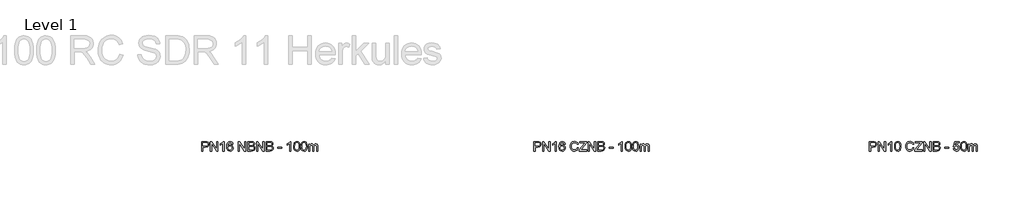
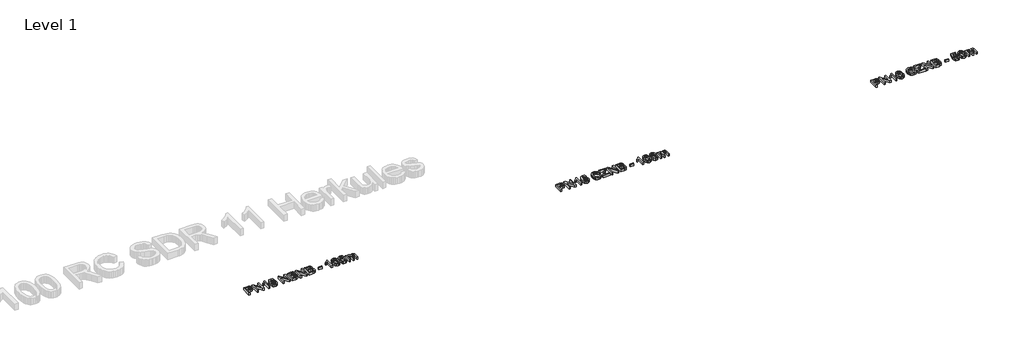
# One storey, part 16 of 17: 3 proxies.
"""IFC4 building model written with IfcOpenShell, lengths in millimetres."""

from ifc_helpers import new_model, si_unit, origin, origin_with_axes, place, context, project, spatial, polyline, outline, extrude, element, save

model = new_model("IFC4")

# Units and contexts
model_context = context("Model", 3, world=origin())
ifc_project = project(units=[si_unit("LENGTHUNIT", "METRE", prefix="MILLI")], contexts=[model_context])

# Site, building, storey
site = spatial("IfcSite", under=ifc_project)
building = spatial("IfcBuilding", under=site)
storey = spatial("IfcBuildingStorey", under=building, Name="Level 1", Elevation=0.0)

# Proxies
placement = place(None, origin())
element("IfcBuildingElementProxy", 1, Name="200mm Arial", ObjectType="200mm Arial", at=placement, inside=storey, context=model_context, shape_type="SweptSolid", body=[
    extrude(outline(polyline([(5829.3512364, 2161.9491293), (5829.3512364, 2362.8617496), (5903.8105522, 2362.8617496), (5933.829723, 2360.9487633), (5958.232562, 2351.5555097), (5967.1046495, 2343.2291138), (5974.0514878, 2332.1313403), (5978.5396481, 2319.0408726), (5980.0357016, 2304.7363944), (5975.995131, 2281.0570566), (5963.8734193, 2261.326319), (5954.1659331, 2253.5578775), (5941.205757, 2248.0089907), (5905.5273348, 2243.5698813), (5854.4653139, 2243.5698813), (5854.4653139, 2161.9491293), (5829.3512364, 2161.9491293)]), holes=[polyline([(5854.4653139, 2268.6839589), (5906.9988628, 2268.6839589), (5929.2679863, 2270.9893527), (5943.9832661, 2277.9055342), (5952.1870346, 2289.0033077), (5954.9216241, 2303.8534776), (5953.3090746, 2315.1351921), (5948.4714264, 2324.6510731), (5941.0095533, 2331.8125092), (5931.5243292, 2336.0308895), (5906.4102516, 2337.7476721), (5854.4653139, 2337.7476721), (5854.4653139, 2268.6839589)])]), origin_with_axes(), (0.0, 0.0, 1.0), 50.0),
    extrude(outline(polyline([(6014.5675582, 2161.9491293), (6014.5675582, 2362.8617496), (6041.4474693, 2362.8617496), (6146.4164653, 2203.6914731), (6146.4164653, 2362.8617496), (6171.5305428, 2362.8617496), (6171.5305428, 2161.9491293), (6144.6506317, 2161.9491293), (6039.6816357, 2321.1684569), (6039.6816357, 2161.9491293), (6014.5675582, 2161.9491293)])), origin_with_axes(), (0.0, 0.0, 1.0), 50.0),
    extrude(outline(polyline([(6300.2401902, 2161.9491293), (6275.1261127, 2161.9491293), (6275.1261127, 2318.5197065), (6251.3364103, 2301.5726092), (6224.8979576, 2288.8929431), (6224.8979576, 2312.6335946), (6261.7106826, 2336.1289913), (6275.181295, 2349.7038369), (6284.0533824, 2362.8617496), (6300.2401902, 2362.8617496), (6300.2401902, 2161.9491293)])), origin_with_axes(), (0.0, 0.0, 1.0), 50.0),
    extrude(outline(polyline([(6359.8861243, 2260.7867587), (6361.7316657, 2292.9457765), (6367.2682897, 2318.5932829), (6376.4408141, 2338.1216855), (6389.1940566, 2351.9233917), (6405.6199877, 2360.1271601), (6425.8105779, 2362.8617496), (6441.2861471, 2361.2430689), (6455.1430356, 2356.3870265), (6466.7313185, 2348.483695), (6475.4010708, 2337.7231466), (6487.1732947, 2307.9982814), (6491.7350314, 2260.7867587), (6489.9078842, 2228.811682), (6484.4264424, 2203.2254892), (6475.3091003, 2183.6786925), (6462.5742519, 2169.821804), (6446.1115327, 2161.5628532), (6425.8105779, 2158.8098696), (6399.7154817, 2163.5923356), (6379.8989049, 2177.9397334), (6371.1433134, 2193.0688805), (6364.8893195, 2211.919767), (6359.8861243, 2260.7867587)]), holes=[polyline([(6385.0002019, 2260.8358096), (6387.9432578, 2221.3314147), (6396.7724257, 2198.4675487), (6409.9180757, 2187.5598476), (6425.8105779, 2183.9239472), (6441.7030801, 2187.5721103), (6454.84873, 2198.5165997), (6463.6778979, 2221.3927284), (6466.6209539, 2260.8358096), (6463.7759998, 2299.4511564), (6455.2411375, 2322.492832), (6442.120013, 2333.9339621), (6425.5162723, 2337.7476721), (6409.7954484, 2334.3876832), (6397.1648332, 2324.3077165), (6388.0413597, 2299.8313011), (6385.0002019, 2260.8358096)])]), origin_with_axes(), (0.0, 0.0, 1.0), 50.0),
    extrude(outline(polyline([(6742.8758068, 2233.3672873), (6767.9898843, 2226.8925642), (6756.4016015, 2197.6275515), (6738.2159682, 2176.2474762), (6714.328164, 2163.1692713), (6685.6333683, 2158.8098696), (6656.5032457, 2162.1085449), (6633.3695996, 2172.0045705), (6615.6376874, 2188.1545901), (6602.7127666, 2210.2152471), (6594.8216978, 2236.1509278), (6592.1913416, 2263.9260184), (6595.1650544, 2293.221688), (6604.0861927, 2318.5197065), (6618.4887729, 2339.016865), (6637.9068108, 2353.9099544), (6660.9362237, 2362.9782456), (6686.1729286, 2366.0010093), (6713.7088959, 2362.0891975), (6736.4746601, 2350.3537618), (6753.7589825, 2331.5182037), (6764.8506246, 2306.3060242), (6739.7365471, 2300.3218105), (6731.0300065, 2318.6362025), (6719.1351554, 2331.1993726), (6703.9048408, 2338.465042), (6685.1919099, 2340.8869318), (6663.6217623, 2338.2013932), (6645.9021129, 2330.1447775), (6632.4560259, 2317.5632133), (6623.7065658, 2301.3028291), (6618.9057058, 2282.9209921), (6617.3054191, 2263.9750693), (6619.2000114, 2240.7739782), (6624.8837882, 2220.7121467), (6634.5713474, 2204.5559957), (6648.4772868, 2193.0719461), (6665.1484726, 2186.2109469), (6683.1317708, 2183.9239472), (6704.0949131, 2187.0386814), (6721.5631765, 2196.3828841), (6734.7517461, 2211.8584534), (6742.8758068, 2233.3672873)])), origin_with_axes(), (0.0, 0.0, 1.0), 50.0),
    extrude(outline(polyline([(6786.8254425, 2161.9491293), (6786.8254425, 2187.9951746), (6889.5871465, 2313.810817), (6909.1094177, 2337.7476721), (6799.3824813, 2337.7476721), (6799.3824813, 2362.8617496), (6940.6491674, 2362.8617496), (6940.6491674, 2337.7476721), (6828.1753787, 2200.061704), (6817.5803773, 2187.0632069), (6943.7884271, 2187.0632069), (6943.7884271, 2161.9491293), (6786.8254425, 2161.9491293)])), origin_with_axes(), (0.0, 0.0, 1.0), 50.0),
    extrude(outline(polyline([(6972.0417643, 2161.9491293), (6972.0417643, 2362.8617496), (6998.9216754, 2362.8617496), (7103.8906714, 2203.6914731), (7103.8906714, 2362.8617496), (7129.0047489, 2362.8617496), (7129.0047489, 2161.9491293), (7102.1248378, 2161.9491293), (6997.1558419, 2321.1684569), (6997.1558419, 2161.9491293), (6972.0417643, 2161.9491293)])), origin_with_axes(), (0.0, 0.0, 1.0), 50.0),
    extrude(outline(polyline([(7172.9543846, 2161.9491293), (7172.9543846, 2362.8617496), (7249.6209924, 2362.8617496), (7270.7067621, 2361.3840903), (7287.1694814, 2356.9511123), (7299.7878338, 2349.4524509), (7309.340503, 2338.7777417), (7315.3553736, 2326.2207029), (7317.3603305, 2313.075053), (7315.6742047, 2300.9778667), (7310.6158272, 2289.6041817), (7302.14841, 2279.6529737), (7290.2351647, 2271.8232186), (7304.4660665, 2264.3920023), (7314.9813602, 2253.0857623), (7321.4744774, 2238.6525253), (7323.6388498, 2221.8403182), (7317.7282125, 2194.8377797), (7303.086509, 2175.6098141), (7281.2343185, 2165.4072201), (7249.0323812, 2161.9491293), (7172.9543846, 2161.9491293)]), holes=[polyline([(7198.0684622, 2187.0632069), (7249.5719415, 2187.0632069), (7268.2112959, 2188.0442255), (7283.9811708, 2193.5134045), (7294.4290194, 2204.6724917), (7298.5247723, 2221.5950635), (7293.7177809, 2241.1173347), (7287.4208674, 2248.1745376), (7278.1441098, 2252.7669312), (7247.1193948, 2256.1269201), (7198.0684622, 2256.1269201), (7198.0684622, 2187.0632069)]), polyline([(7198.0684622, 2281.2409976), (7243.9310842, 2281.2409976), (7270.7128935, 2283.3992387), (7286.8261249, 2292.6943904), (7292.2462529, 2309.0528765), (7287.1940069, 2325.435888), (7272.7239817, 2335.1234472), (7240.448468, 2337.7476721), (7198.0684622, 2337.7476721), (7198.0684622, 2281.2409976)])]), origin_with_axes(), (0.0, 0.0, 1.0), 50.0),
    extrude(outline(polyline([(7420.9559003, 2221.5950635), (7420.9559003, 2246.709141), (7499.4373926, 2246.709141), (7499.4373926, 2221.5950635), (7420.9559003, 2221.5950635)])), origin_with_axes(), (0.0, 0.0, 1.0), 50.0),
    extrude(outline(polyline([(7599.8937028, 2215.3165441), (7625.0077803, 2218.4558038), (7629.618568, 2203.3787734), (7637.6629209, 2192.5814368), (7649.104051, 2186.0883196), (7663.9051699, 2183.9239472), (7681.9068622, 2186.9344482), (7695.3958687, 2195.9659512), (7703.8203664, 2209.9761238), (7706.6285323, 2227.9226338), (7703.998176, 2244.8206801), (7696.1071072, 2257.7456009), (7682.8940122, 2265.9493694), (7664.2975774, 2268.6839589), (7642.2491831, 2264.3184259), (7628.14704, 2252.9876604), (7603.0329624, 2256.1269201), (7625.0077803, 2359.7224899), (7722.3248308, 2359.7224899), (7722.3248308, 2334.6084124), (7645.3148664, 2334.6084124), (7634.5727122, 2279.2789603), (7652.5130908, 2290.1682674), (7671.3118608, 2293.7980364), (7694.7766007, 2289.2976133), (7714.2559523, 2275.7963441), (7727.3709455, 2255.2194779), (7731.7426098, 2229.4922637), (7727.8062725, 2204.3781861), (7715.9972604, 2182.8938776), (7705.5616745, 2172.3571241), (7693.3847805, 2164.8308716), (7679.4665783, 2160.3151201), (7663.8070681, 2158.8098696), (7639.1405803, 2162.678762), (7619.4895504, 2174.2854389), (7606.018938, 2192.2809998), (7599.8937028, 2215.3165441)])), origin_with_axes(), (0.0, 0.0, 1.0), 50.0),
    extrude(outline(polyline([(7753.7174277, 2260.7867587), (7755.562969, 2292.9457765), (7761.099593, 2318.5932829), (7770.2721175, 2338.1216855), (7783.02536, 2351.9233917), (7799.451291, 2360.1271601), (7819.6418812, 2362.8617496), (7835.1174505, 2361.2430689), (7848.974339, 2356.3870265), (7860.5626218, 2348.483695), (7869.2323742, 2337.7231466), (7881.004598, 2307.9982814), (7885.5663347, 2260.7867587), (7883.7391875, 2228.811682), (7878.2577458, 2203.2254892), (7869.1404037, 2183.6786925), (7856.4055553, 2169.821804), (7839.942836, 2161.5628532), (7819.6418812, 2158.8098696), (7793.546785, 2163.5923356), (7773.7302082, 2177.9397334), (7764.9746167, 2193.0688805), (7758.7206228, 2211.919767), (7753.7174277, 2260.7867587)]), holes=[polyline([(7778.8315052, 2260.8358096), (7781.7745612, 2221.3314147), (7790.6037291, 2198.4675487), (7803.749379, 2187.5598476), (7819.6418812, 2183.9239472), (7835.5343834, 2187.5721103), (7848.6800334, 2198.5165997), (7857.5092012, 2221.3927284), (7860.4522572, 2260.8358096), (7857.6073031, 2299.4511564), (7849.0724408, 2322.492832), (7835.9513163, 2333.9339621), (7819.3475756, 2337.7476721), (7803.6267517, 2334.3876832), (7790.9961365, 2324.3077165), (7781.872663, 2299.8313011), (7778.8315052, 2260.8358096)])]), origin_with_axes(), (0.0, 0.0, 1.0), 50.0),
    extrude(outline(polyline([(7913.819672, 2161.9491293), (7913.819672, 2309.4943349), (7938.9337495, 2309.4943349), (7938.9337495, 2285.2141232), (7946.4875931, 2296.367079), (7956.1996778, 2305.1042764), (7967.7389097, 2310.751265), (7980.7741951, 2312.6335946), (7994.7414482, 2310.7144768), (8005.9373236, 2304.9571236), (8014.3005076, 2295.7416796), (8019.7696866, 2283.4482896), (8028.9238169, 2296.2168605), (8039.3655342, 2305.3372683), (8051.0948385, 2310.809513), (8064.1117297, 2312.6335946), (8082.9902075, 2309.5985681), (8096.9513292, 2300.4934887), (8105.578162, 2285.0731018), (8108.4537729, 2263.0921525), (8108.4537729, 2161.9491293), (8083.3396954, 2161.9491293), (8083.3396954, 2252.3009474), (8081.009776, 2273.2702211), (8072.5730156, 2283.5954424), (8058.2256178, 2287.519517), (8044.6201154, 2285.0056567), (8033.5284732, 2277.4640758), (8026.1524392, 2264.3797395), (8023.6937612, 2245.237613), (8023.6937612, 2161.9491293), (7998.5796837, 2161.9491293), (7998.5796837, 2255.0968505), (7997.1265498, 2269.2970955), (7992.7671481, 2279.4261131), (7985.0968085, 2285.4961661), (7973.7108608, 2287.519517), (7955.1205573, 2282.1239144), (7947.7629174, 2275.4775131), (7942.7597223, 2266.3295141), (7938.9337495, 2236.3593942), (7938.9337495, 2161.9491293), (7913.819672, 2161.9491293)])), origin_with_axes(), (0.0, 0.0, 1.0), 50.0),
])
element("IfcBuildingElementProxy", 2, Name="200mm Arial", ObjectType="200mm Arial", at=placement, inside=storey, context=model_context, shape_type="SweptSolid", body=[
    extrude(outline(polyline([(-8255.4087753, 2161.9491293), (-8255.4087753, 2362.8617496), (-8180.9494595, 2362.8617496), (-8150.9302887, 2360.9487633), (-8126.5274497, 2351.5555097), (-8117.6553622, 2343.2291138), (-8110.7085239, 2332.1313403), (-8106.2203635, 2319.0408726), (-8104.7243101, 2304.7363944), (-8108.7648807, 2281.0570566), (-8120.8865924, 2261.326319), (-8130.5940786, 2253.5578775), (-8143.5542547, 2248.0089907), (-8179.2326769, 2243.5698813), (-8230.2946978, 2243.5698813), (-8230.2946978, 2161.9491293), (-8255.4087753, 2161.9491293)]), holes=[polyline([(-8230.2946978, 2268.6839589), (-8177.7611489, 2268.6839589), (-8155.4920254, 2270.9893527), (-8140.7767456, 2277.9055342), (-8132.5729771, 2289.0033077), (-8129.8383876, 2303.8534776), (-8131.450937, 2315.1351921), (-8136.2885853, 2324.6510731), (-8143.7504584, 2331.8125092), (-8153.2356825, 2336.0308895), (-8178.3497601, 2337.7476721), (-8230.2946978, 2337.7476721), (-8230.2946978, 2268.6839589)])]), origin_with_axes(), (0.0, 0.0, 1.0), 50.0),
    extrude(outline(polyline([(-8070.1924535, 2161.9491293), (-8070.1924535, 2362.8617496), (-8043.3125424, 2362.8617496), (-7938.3435464, 2203.6914731), (-7938.3435464, 2362.8617496), (-7913.2294689, 2362.8617496), (-7913.2294689, 2161.9491293), (-7940.10938, 2161.9491293), (-8045.0783759, 2321.1684569), (-8045.0783759, 2161.9491293), (-8070.1924535, 2161.9491293)])), origin_with_axes(), (0.0, 0.0, 1.0), 50.0),
    extrude(outline(polyline([(-7784.5198215, 2161.9491293), (-7809.633899, 2161.9491293), (-7809.633899, 2318.5197065), (-7833.4236014, 2301.5726092), (-7859.8620541, 2288.8929431), (-7859.8620541, 2312.6335946), (-7823.0493291, 2336.1289913), (-7809.5787167, 2349.7038369), (-7800.7066293, 2362.8617496), (-7784.5198215, 2362.8617496), (-7784.5198215, 2161.9491293)])), origin_with_axes(), (0.0, 0.0, 1.0), 50.0),
    extrude(outline(polyline([(-7596.16424, 2309.4943349), (-7621.2783175, 2306.3550752), (-7630.7941984, 2327.2998234), (-7642.1862776, 2335.1357099), (-7655.9573269, 2337.7476721), (-7678.6188578, 2331.6653565), (-7688.055031, 2322.057505), (-7695.7621588, 2308.8321473), (-7700.967689, 2290.1253478), (-7702.8990695, 2264.0731712), (-7692.8252342, 2275.8270009), (-7680.7525734, 2284.1104772), (-7667.3555374, 2289.0217018), (-7653.3085765, 2290.6587767), (-7630.1074854, 2286.1828791), (-7610.6342651, 2272.7551863), (-7597.4273015, 2252.2396337), (-7593.0249803, 2226.5001568), (-7595.0973822, 2208.5168586), (-7601.3145879, 2191.8456728), (-7611.1615626, 2177.7067415), (-7624.1232716, 2167.3202065), (-7639.6111036, 2160.9374539), (-7657.0364474, 2158.8098696), (-7685.528908, 2164.4507269), (-7708.2210957, 2181.3732987), (-7716.8801182, 2194.4821604), (-7723.0651342, 2211.2453167), (-7728.013147, 2255.7345126), (-7722.5194426, 2305.7542013), (-7715.652312, 2324.8319484), (-7706.0383292, 2339.9549641), (-7695.6180717, 2349.9766828), (-7683.5362138, 2357.1350532), (-7654.3876971, 2362.8617496), (-7632.3515656, 2359.3178198), (-7614.7054925, 2348.6860301), (-7602.3446575, 2331.8002465), (-7596.16424, 2309.4943349)]), holes=[polyline([(-7702.8990695, 2226.8925642), (-7697.086534, 2205.1384756), (-7681.6354902, 2189.3440752), (-7658.9984847, 2183.9239472), (-7642.4254009, 2186.7321131), (-7629.3962469, 2195.1566108), (-7620.9533551, 2208.4003626), (-7618.1390578, 2225.6662909), (-7620.9165669, 2242.2393748), (-7629.2490941, 2254.8761213), (-7642.4989773, 2262.8775547), (-7660.0285543, 2265.5446992), (-7676.5771127, 2262.8775547), (-7690.4156071, 2254.8761213), (-7699.7782039, 2242.5459431), (-7702.8990695, 2226.8925642)])]), origin_with_axes(), (0.0, 0.0, 1.0), 50.0),
    extrude(outline(polyline([(-7483.150891, 2161.9491293), (-7483.150891, 2362.8617496), (-7456.2709799, 2362.8617496), (-7351.301984, 2203.6914731), (-7351.301984, 2362.8617496), (-7326.1879064, 2362.8617496), (-7326.1879064, 2161.9491293), (-7353.0678175, 2161.9491293), (-7458.0368135, 2321.1684569), (-7458.0368135, 2161.9491293), (-7483.150891, 2161.9491293)])), origin_with_axes(), (0.0, 0.0, 1.0), 50.0),
    extrude(outline(polyline([(-7282.2382707, 2161.9491293), (-7282.2382707, 2362.8617496), (-7205.5716629, 2362.8617496), (-7184.4858933, 2361.3840903), (-7168.023174, 2356.9511123), (-7155.4048215, 2349.4524509), (-7145.8521524, 2338.7777417), (-7139.8372818, 2326.2207029), (-7137.8323249, 2313.075053), (-7139.5184507, 2300.9778667), (-7144.5768281, 2289.6041817), (-7153.0442454, 2279.6529737), (-7164.9574907, 2271.8232186), (-7150.7265888, 2264.3920023), (-7140.2112951, 2253.0857623), (-7133.7181779, 2238.6525253), (-7131.5538055, 2221.8403182), (-7137.4644429, 2194.8377797), (-7152.1061463, 2175.6098141), (-7173.9583368, 2165.4072201), (-7206.1602741, 2161.9491293), (-7282.2382707, 2161.9491293)]), holes=[polyline([(-7257.1241932, 2187.0632069), (-7205.6207139, 2187.0632069), (-7186.9813595, 2188.0442255), (-7171.2114846, 2193.5134045), (-7160.7636359, 2204.6724917), (-7156.6678831, 2221.5950635), (-7161.4748745, 2241.1173347), (-7167.7717879, 2248.1745376), (-7177.0485456, 2252.7669312), (-7208.0732605, 2256.1269201), (-7257.1241932, 2256.1269201), (-7257.1241932, 2187.0632069)]), polyline([(-7257.1241932, 2281.2409976), (-7211.2615711, 2281.2409976), (-7184.4797619, 2283.3992387), (-7168.3665305, 2292.6943904), (-7162.9464024, 2309.0528765), (-7167.9986485, 2325.435888), (-7182.4686737, 2335.1234472), (-7214.7441874, 2337.7476721), (-7257.1241932, 2337.7476721), (-7257.1241932, 2281.2409976)])]), origin_with_axes(), (0.0, 0.0, 1.0), 50.0),
    extrude(outline(polyline([(-7097.0219489, 2161.9491293), (-7097.0219489, 2362.8617496), (-7070.1420378, 2362.8617496), (-6965.1730418, 2203.6914731), (-6965.1730418, 2362.8617496), (-6940.0589643, 2362.8617496), (-6940.0589643, 2161.9491293), (-6966.9388754, 2161.9491293), (-7071.9078714, 2321.1684569), (-7071.9078714, 2161.9491293), (-7097.0219489, 2161.9491293)])), origin_with_axes(), (0.0, 0.0, 1.0), 50.0),
    extrude(outline(polyline([(-6896.1093286, 2161.9491293), (-6896.1093286, 2362.8617496), (-6819.4427208, 2362.8617496), (-6798.3569511, 2361.3840903), (-6781.8942318, 2356.9511123), (-6769.2758794, 2349.4524509), (-6759.7232103, 2338.7777417), (-6753.7083396, 2326.2207029), (-6751.7033828, 2313.075053), (-6753.3895086, 2300.9778667), (-6758.447886, 2289.6041817), (-6766.9153033, 2279.6529737), (-6778.8285485, 2271.8232186), (-6764.5976467, 2264.3920023), (-6754.082353, 2253.0857623), (-6747.5892358, 2238.6525253), (-6745.4248634, 2221.8403182), (-6751.3355008, 2194.8377797), (-6765.9772042, 2175.6098141), (-6787.8293947, 2165.4072201), (-6820.031332, 2161.9491293), (-6896.1093286, 2161.9491293)]), holes=[polyline([(-6870.9952511, 2187.0632069), (-6819.4917717, 2187.0632069), (-6800.8524173, 2188.0442255), (-6785.0825425, 2193.5134045), (-6774.6346938, 2204.6724917), (-6770.5389409, 2221.5950635), (-6775.3459323, 2241.1173347), (-6781.6428458, 2248.1745376), (-6790.9196035, 2252.7669312), (-6821.9443184, 2256.1269201), (-6870.9952511, 2256.1269201), (-6870.9952511, 2187.0632069)]), polyline([(-6870.9952511, 2281.2409976), (-6825.132629, 2281.2409976), (-6798.3508198, 2283.3992387), (-6782.2375884, 2292.6943904), (-6776.8174603, 2309.0528765), (-6781.8697064, 2325.435888), (-6796.3397315, 2335.1234472), (-6828.6152452, 2337.7476721), (-6870.9952511, 2337.7476721), (-6870.9952511, 2281.2409976)])]), origin_with_axes(), (0.0, 0.0, 1.0), 50.0),
    extrude(outline(polyline([(-6648.1078129, 2221.5950635), (-6648.1078129, 2246.709141), (-6569.6263206, 2246.709141), (-6569.6263206, 2221.5950635), (-6648.1078129, 2221.5950635)])), origin_with_axes(), (0.0, 0.0, 1.0), 50.0),
    extrude(outline(polyline([(-6374.9922197, 2161.9491293), (-6400.1062972, 2161.9491293), (-6400.1062972, 2318.5197065), (-6423.8959996, 2301.5726092), (-6450.3344523, 2288.8929431), (-6450.3344523, 2312.6335946), (-6413.5217273, 2336.1289913), (-6400.0511149, 2349.7038369), (-6391.1790275, 2362.8617496), (-6374.9922197, 2362.8617496), (-6374.9922197, 2161.9491293)])), origin_with_axes(), (0.0, 0.0, 1.0), 50.0),
    extrude(outline(polyline([(-6315.3462856, 2260.7867587), (-6313.5007442, 2292.9457765), (-6307.9641202, 2318.5932829), (-6298.7915958, 2338.1216855), (-6286.0383533, 2351.9233917), (-6269.6124222, 2360.1271601), (-6249.421832, 2362.8617496), (-6233.9462628, 2361.2430689), (-6220.0893743, 2356.3870265), (-6208.5010914, 2348.483695), (-6199.8313391, 2337.7231466), (-6188.0591152, 2307.9982814), (-6183.4973785, 2260.7867587), (-6185.3245257, 2228.811682), (-6190.8059675, 2203.2254892), (-6199.9233096, 2183.6786925), (-6212.658158, 2169.821804), (-6229.1208773, 2161.5628532), (-6249.421832, 2158.8098696), (-6275.5169282, 2163.5923356), (-6295.333505, 2177.9397334), (-6304.0890965, 2193.0688805), (-6310.3430904, 2211.919767), (-6315.3462856, 2260.7867587)]), holes=[polyline([(-6290.232208, 2260.8358096), (-6287.2891521, 2221.3314147), (-6278.4599842, 2198.4675487), (-6265.3143342, 2187.5598476), (-6249.421832, 2183.9239472), (-6233.5293298, 2187.5721103), (-6220.3836799, 2198.5165997), (-6211.554512, 2221.3927284), (-6208.611456, 2260.8358096), (-6211.4564101, 2299.4511564), (-6219.9912724, 2322.492832), (-6233.1123969, 2333.9339621), (-6249.7161376, 2337.7476721), (-6265.4369615, 2334.3876832), (-6278.0675767, 2324.3077165), (-6287.1910502, 2299.8313011), (-6290.232208, 2260.8358096)])]), origin_with_axes(), (0.0, 0.0, 1.0), 50.0),
    extrude(outline(polyline([(-6161.5225606, 2260.7867587), (-6159.6770193, 2292.9457765), (-6154.1403953, 2318.5932829), (-6144.9678709, 2338.1216855), (-6132.2146284, 2351.9233917), (-6115.7886973, 2360.1271601), (-6095.5981071, 2362.8617496), (-6080.1225378, 2361.2430689), (-6066.2656494, 2356.3870265), (-6054.6773665, 2348.483695), (-6046.0076142, 2337.7231466), (-6034.2353903, 2307.9982814), (-6029.6736536, 2260.7867587), (-6031.5008008, 2228.811682), (-6036.9822425, 2203.2254892), (-6046.0995847, 2183.6786925), (-6058.8344331, 2169.821804), (-6075.2971523, 2161.5628532), (-6095.5981071, 2158.8098696), (-6121.6932033, 2163.5923356), (-6141.5097801, 2177.9397334), (-6150.2653716, 2193.0688805), (-6156.5193655, 2211.919767), (-6161.5225606, 2260.7867587)]), holes=[polyline([(-6136.4084831, 2260.8358096), (-6133.4654271, 2221.3314147), (-6124.6362593, 2198.4675487), (-6111.4906093, 2187.5598476), (-6095.5981071, 2183.9239472), (-6079.7056049, 2187.5721103), (-6066.5599549, 2198.5165997), (-6057.7307871, 2221.3927284), (-6054.7877311, 2260.8358096), (-6057.6326852, 2299.4511564), (-6066.1675475, 2322.492832), (-6079.288672, 2333.9339621), (-6095.8924127, 2337.7476721), (-6111.6132366, 2334.3876832), (-6124.2438518, 2324.3077165), (-6133.3673253, 2299.8313011), (-6136.4084831, 2260.8358096)])]), origin_with_axes(), (0.0, 0.0, 1.0), 50.0),
    extrude(outline(polyline([(-6001.4203163, 2161.9491293), (-6001.4203163, 2309.4943349), (-5976.3062388, 2309.4943349), (-5976.3062388, 2285.2141232), (-5968.7523952, 2296.367079), (-5959.0403105, 2305.1042764), (-5947.5010786, 2310.751265), (-5934.4657932, 2312.6335946), (-5920.4985401, 2310.7144768), (-5909.3026647, 2304.9571236), (-5900.9394807, 2295.7416796), (-5895.4703017, 2283.4482896), (-5886.3161714, 2296.2168605), (-5875.8744541, 2305.3372683), (-5864.1451498, 2310.809513), (-5851.1282586, 2312.6335946), (-5832.2497809, 2309.5985681), (-5818.2886591, 2300.4934887), (-5809.6618264, 2285.0731018), (-5806.7862154, 2263.0921525), (-5806.7862154, 2161.9491293), (-5831.900293, 2161.9491293), (-5831.900293, 2252.3009474), (-5834.2302123, 2273.2702211), (-5842.6669727, 2283.5954424), (-5857.0143705, 2287.519517), (-5870.619873, 2285.0056567), (-5881.7115151, 2277.4640758), (-5889.0875491, 2264.3797395), (-5891.5462271, 2245.237613), (-5891.5462271, 2161.9491293), (-5916.6603046, 2161.9491293), (-5916.6603046, 2255.0968505), (-5918.1134385, 2269.2970955), (-5922.4728402, 2279.4261131), (-5930.1431798, 2285.4961661), (-5941.5291275, 2287.519517), (-5960.119431, 2282.1239144), (-5967.4770709, 2275.4775131), (-5972.480266, 2266.3295141), (-5976.3062388, 2236.3593942), (-5976.3062388, 2161.9491293), (-6001.4203163, 2161.9491293)])), origin_with_axes(), (0.0, 0.0, 1.0), 50.0),
])
element("IfcBuildingElementProxy", 3, Name="200mm Arial", ObjectType="200mm Arial", at=placement, inside=storey, context=model_context, shape_type="SweptSolid", body=[
    extrude(outline(polyline([(-1247.5606261, 2161.9491293), (-1247.5606261, 2362.8617496), (-1173.1013103, 2362.8617496), (-1143.0821395, 2360.9487633), (-1118.6793004, 2351.5555097), (-1109.807213, 2343.2291138), (-1102.8603747, 2332.1313403), (-1098.3722143, 2319.0408726), (-1096.8761609, 2304.7363944), (-1100.9167314, 2281.0570566), (-1113.0384432, 2261.326319), (-1122.7459293, 2253.5578775), (-1135.7061055, 2248.0089907), (-1171.3845276, 2243.5698813), (-1222.4465486, 2243.5698813), (-1222.4465486, 2161.9491293), (-1247.5606261, 2161.9491293)]), holes=[polyline([(-1222.4465486, 2268.6839589), (-1169.9129996, 2268.6839589), (-1147.6438762, 2270.9893527), (-1132.9285964, 2277.9055342), (-1124.7248279, 2289.0033077), (-1121.9902384, 2303.8534776), (-1123.6027878, 2315.1351921), (-1128.440436, 2324.6510731), (-1135.9023092, 2331.8125092), (-1145.3875333, 2336.0308895), (-1170.5016108, 2337.7476721), (-1222.4465486, 2337.7476721), (-1222.4465486, 2268.6839589)])]), origin_with_axes(), (0.0, 0.0, 1.0), 50.0),
    extrude(outline(polyline([(-1062.3443042, 2161.9491293), (-1062.3443042, 2362.8617496), (-1035.4643931, 2362.8617496), (-930.4953972, 2203.6914731), (-930.4953972, 2362.8617496), (-905.3813196, 2362.8617496), (-905.3813196, 2161.9491293), (-932.2612308, 2161.9491293), (-1037.2302267, 2321.1684569), (-1037.2302267, 2161.9491293), (-1062.3443042, 2161.9491293)])), origin_with_axes(), (0.0, 0.0, 1.0), 50.0),
    extrude(outline(polyline([(-776.6716723, 2161.9491293), (-801.7857498, 2161.9491293), (-801.7857498, 2318.5197065), (-825.5754522, 2301.5726092), (-852.0139049, 2288.8929431), (-852.0139049, 2312.6335946), (-815.2011799, 2336.1289913), (-801.7305675, 2349.7038369), (-792.85848, 2362.8617496), (-776.6716723, 2362.8617496), (-776.6716723, 2161.9491293)])), origin_with_axes(), (0.0, 0.0, 1.0), 50.0),
    extrude(outline(polyline([(-588.3160907, 2309.4943349), (-613.4301683, 2306.3550752), (-622.9460492, 2327.2998234), (-634.3381283, 2335.1357099), (-648.1091777, 2337.7476721), (-670.7707086, 2331.6653565), (-680.2068818, 2322.057505), (-687.9140096, 2308.8321473), (-693.1195398, 2290.1253478), (-695.0509203, 2264.0731712), (-684.977085, 2275.8270009), (-672.9044242, 2284.1104772), (-659.5073882, 2289.0217018), (-645.4604273, 2290.6587767), (-622.2593362, 2286.1828791), (-602.7861159, 2272.7551863), (-589.5791522, 2252.2396337), (-585.176831, 2226.5001568), (-587.2492329, 2208.5168586), (-593.4664387, 2191.8456728), (-603.3134134, 2177.7067415), (-616.2751224, 2167.3202065), (-631.7629544, 2160.9374539), (-649.1882982, 2158.8098696), (-677.6807587, 2164.4507269), (-700.3729465, 2181.3732987), (-709.0319689, 2194.4821604), (-715.216985, 2211.2453167), (-720.1649978, 2255.7345126), (-714.6712933, 2305.7542013), (-707.8041628, 2324.8319484), (-698.19018, 2339.9549641), (-687.7699224, 2349.9766828), (-675.6880646, 2357.1350532), (-646.5395478, 2362.8617496), (-624.5034163, 2359.3178198), (-606.8573433, 2348.6860301), (-594.4965082, 2331.8002465), (-588.3160907, 2309.4943349)]), holes=[polyline([(-695.0509203, 2226.8925642), (-689.2383847, 2205.1384756), (-673.7873409, 2189.3440752), (-651.1503355, 2183.9239472), (-634.5772516, 2186.7321131), (-621.5480976, 2195.1566108), (-613.1052058, 2208.4003626), (-610.2909086, 2225.6662909), (-613.0684176, 2242.2393748), (-621.4009448, 2254.8761213), (-634.650828, 2262.8775547), (-652.1804051, 2265.5446992), (-668.7289635, 2262.8775547), (-682.5674579, 2254.8761213), (-691.9300547, 2242.5459431), (-695.0509203, 2226.8925642)])]), origin_with_axes(), (0.0, 0.0, 1.0), 50.0),
    extrude(outline(polyline([(-334.0360557, 2233.3672873), (-308.9219781, 2226.8925642), (-320.510261, 2197.6275515), (-338.6958943, 2176.2474762), (-362.5836985, 2163.1692713), (-391.2784941, 2158.8098696), (-420.4086168, 2162.1085449), (-443.5422629, 2172.0045705), (-461.2741751, 2188.1545901), (-474.1990958, 2210.2152471), (-482.0901646, 2236.1509278), (-484.7205209, 2263.9260184), (-481.7468081, 2293.221688), (-472.8256697, 2318.5197065), (-458.4230896, 2339.016865), (-439.0050516, 2353.9099544), (-415.9756387, 2362.9782456), (-390.7389339, 2366.0010093), (-363.2029665, 2362.0891975), (-340.4372024, 2350.3537618), (-323.15288, 2331.5182037), (-312.0612378, 2306.3060242), (-337.1753154, 2300.3218105), (-345.8818559, 2318.6362025), (-357.7767071, 2331.1993726), (-373.0070217, 2338.465042), (-391.7199525, 2340.8869318), (-413.2901002, 2338.2013932), (-431.0097496, 2330.1447775), (-444.4558365, 2317.5632133), (-453.2052966, 2301.3028291), (-458.0061567, 2282.9209921), (-459.6064434, 2263.9750693), (-457.7118511, 2240.7739782), (-452.0280743, 2220.7121467), (-442.340515, 2204.5559957), (-428.4345756, 2193.0719461), (-411.7633899, 2186.2109469), (-393.7800917, 2183.9239472), (-372.8169493, 2187.0386814), (-355.3486859, 2196.3828841), (-342.1601164, 2211.8584534), (-334.0360557, 2233.3672873)])), origin_with_axes(), (0.0, 0.0, 1.0), 50.0),
    extrude(outline(polyline([(-290.08642, 2161.9491293), (-290.08642, 2187.9951746), (-187.324716, 2313.810817), (-167.8024448, 2337.7476721), (-277.5293812, 2337.7476721), (-277.5293812, 2362.8617496), (-136.2626951, 2362.8617496), (-136.2626951, 2337.7476721), (-248.7364837, 2200.061704), (-259.3314852, 2187.0632069), (-133.1234354, 2187.0632069), (-133.1234354, 2161.9491293), (-290.08642, 2161.9491293)])), origin_with_axes(), (0.0, 0.0, 1.0), 50.0),
    extrude(outline(polyline([(-104.8700981, 2161.9491293), (-104.8700981, 2362.8617496), (-77.990187, 2362.8617496), (26.9788089, 2203.6914731), (26.9788089, 2362.8617496), (52.0928865, 2362.8617496), (52.0928865, 2161.9491293), (25.2129754, 2161.9491293), (-79.7560206, 2321.1684569), (-79.7560206, 2161.9491293), (-104.8700981, 2161.9491293)])), origin_with_axes(), (0.0, 0.0, 1.0), 50.0),
    extrude(outline(polyline([(96.0425222, 2161.9491293), (96.0425222, 2362.8617496), (172.70913, 2362.8617496), (193.7948996, 2361.3840903), (210.2576189, 2356.9511123), (222.8759714, 2349.4524509), (232.4286405, 2338.7777417), (238.4435111, 2326.2207029), (240.448468, 2313.075053), (238.7623422, 2300.9778667), (233.7039648, 2289.6041817), (225.2365475, 2279.6529737), (213.3233022, 2271.8232186), (227.5542041, 2264.3920023), (238.0694978, 2253.0857623), (244.562615, 2238.6525253), (246.7269874, 2221.8403182), (240.81635, 2194.8377797), (226.1746466, 2175.6098141), (204.3224561, 2165.4072201), (172.1205188, 2161.9491293), (96.0425222, 2161.9491293)]), holes=[polyline([(121.1565997, 2187.0632069), (172.660079, 2187.0632069), (191.2994334, 2188.0442255), (207.0693083, 2193.5134045), (217.517157, 2204.6724917), (221.6129099, 2221.5950635), (216.8059184, 2241.1173347), (210.509005, 2248.1745376), (201.2322473, 2252.7669312), (170.2075324, 2256.1269201), (121.1565997, 2256.1269201), (121.1565997, 2187.0632069)]), polyline([(121.1565997, 2281.2409976), (167.0192218, 2281.2409976), (193.801031, 2283.3992387), (209.9142624, 2292.6943904), (215.3343905, 2309.0528765), (210.2821444, 2325.435888), (195.8121193, 2335.1234472), (163.5366055, 2337.7476721), (121.1565997, 2337.7476721), (121.1565997, 2281.2409976)])]), origin_with_axes(), (0.0, 0.0, 1.0), 50.0),
    extrude(outline(polyline([(344.0440378, 2221.5950635), (344.0440378, 2246.709141), (422.5255301, 2246.709141), (422.5255301, 2221.5950635), (344.0440378, 2221.5950635)])), origin_with_axes(), (0.0, 0.0, 1.0), 50.0),
    extrude(outline(polyline([(617.1596311, 2161.9491293), (592.0455535, 2161.9491293), (592.0455535, 2318.5197065), (568.2558512, 2301.5726092), (541.8173985, 2288.8929431), (541.8173985, 2312.6335946), (578.6301234, 2336.1289913), (592.1007358, 2349.7038369), (600.9728233, 2362.8617496), (617.1596311, 2362.8617496), (617.1596311, 2161.9491293)])), origin_with_axes(), (0.0, 0.0, 1.0), 50.0),
    extrude(outline(polyline([(676.8055652, 2260.7867587), (678.6511066, 2292.9457765), (684.1877306, 2318.5932829), (693.360255, 2338.1216855), (706.1134975, 2351.9233917), (722.5394286, 2360.1271601), (742.7300188, 2362.8617496), (758.205588, 2361.2430689), (772.0624765, 2356.3870265), (783.6507593, 2348.483695), (792.3205117, 2337.7231466), (804.0927355, 2307.9982814), (808.6544723, 2260.7867587), (806.827325, 2228.811682), (801.3458833, 2203.2254892), (792.2285412, 2183.6786925), (779.4936928, 2169.821804), (763.0309735, 2161.5628532), (742.7300188, 2158.8098696), (716.6349226, 2163.5923356), (696.8183458, 2177.9397334), (688.0627543, 2193.0688805), (681.8087604, 2211.919767), (676.8055652, 2260.7867587)]), holes=[polyline([(701.9196428, 2260.8358096), (704.8626987, 2221.3314147), (713.6918666, 2198.4675487), (726.8375166, 2187.5598476), (742.7300188, 2183.9239472), (758.6225209, 2187.5721103), (771.7681709, 2198.5165997), (780.5973388, 2221.3927284), (783.5403947, 2260.8358096), (780.6954407, 2299.4511564), (772.1605784, 2322.492832), (759.0394539, 2333.9339621), (742.4357132, 2337.7476721), (726.7148892, 2334.3876832), (714.0842741, 2324.3077165), (704.9608006, 2299.8313011), (701.9196428, 2260.8358096)])]), origin_with_axes(), (0.0, 0.0, 1.0), 50.0),
    extrude(outline(polyline([(830.6292901, 2260.7867587), (832.4748315, 2292.9457765), (838.0114555, 2318.5932829), (847.1839799, 2338.1216855), (859.9372224, 2351.9233917), (876.3631535, 2360.1271601), (896.5537437, 2362.8617496), (912.0293129, 2361.2430689), (925.8862014, 2356.3870265), (937.4744843, 2348.483695), (946.1442366, 2337.7231466), (957.9164605, 2307.9982814), (962.4781972, 2260.7867587), (960.65105, 2228.811682), (955.1696082, 2203.2254892), (946.0522661, 2183.6786925), (933.3174177, 2169.821804), (916.8546984, 2161.5628532), (896.5537437, 2158.8098696), (870.4586475, 2163.5923356), (850.6420707, 2177.9397334), (841.8864792, 2193.0688805), (835.6324853, 2211.919767), (830.6292901, 2260.7867587)]), holes=[polyline([(855.7433677, 2260.8358096), (858.6864236, 2221.3314147), (867.5155915, 2198.4675487), (880.6612415, 2187.5598476), (896.5537437, 2183.9239472), (912.4462459, 2187.5721103), (925.5918958, 2198.5165997), (934.4210637, 2221.3927284), (937.3641197, 2260.8358096), (934.5191656, 2299.4511564), (925.9843033, 2322.492832), (912.8631788, 2333.9339621), (896.2594381, 2337.7476721), (880.5386141, 2334.3876832), (867.907999, 2324.3077165), (858.7845255, 2299.8313011), (855.7433677, 2260.8358096)])]), origin_with_axes(), (0.0, 0.0, 1.0), 50.0),
    extrude(outline(polyline([(990.7315344, 2161.9491293), (990.7315344, 2309.4943349), (1015.845612, 2309.4943349), (1015.845612, 2285.2141232), (1023.3994556, 2296.367079), (1033.1115403, 2305.1042764), (1044.6507722, 2310.751265), (1057.6860576, 2312.6335946), (1071.6533106, 2310.7144768), (1082.849186, 2304.9571236), (1091.21237, 2295.7416796), (1096.681549, 2283.4482896), (1105.8356794, 2296.2168605), (1116.2773967, 2305.3372683), (1128.0067009, 2310.809513), (1141.0235922, 2312.6335946), (1159.9020699, 2309.5985681), (1173.8631916, 2300.4934887), (1182.4900244, 2285.0731018), (1185.3656353, 2263.0921525), (1185.3656353, 2161.9491293), (1160.2515578, 2161.9491293), (1160.2515578, 2252.3009474), (1157.9216385, 2273.2702211), (1149.4848781, 2283.5954424), (1135.1374803, 2287.519517), (1121.5319778, 2285.0056567), (1110.4403357, 2277.4640758), (1103.0643017, 2264.3797395), (1100.6056237, 2245.237613), (1100.6056237, 2161.9491293), (1075.4915461, 2161.9491293), (1075.4915461, 2255.0968505), (1074.0384122, 2269.2970955), (1069.6790106, 2279.4261131), (1062.008671, 2285.4961661), (1050.6227232, 2287.519517), (1032.0324198, 2282.1239144), (1024.6747799, 2275.4775131), (1019.6715847, 2266.3295141), (1015.845612, 2236.3593942), (1015.845612, 2161.9491293), (990.7315344, 2161.9491293)])), origin_with_axes(), (0.0, 0.0, 1.0), 50.0),
])

save(model, "model.ifc")
